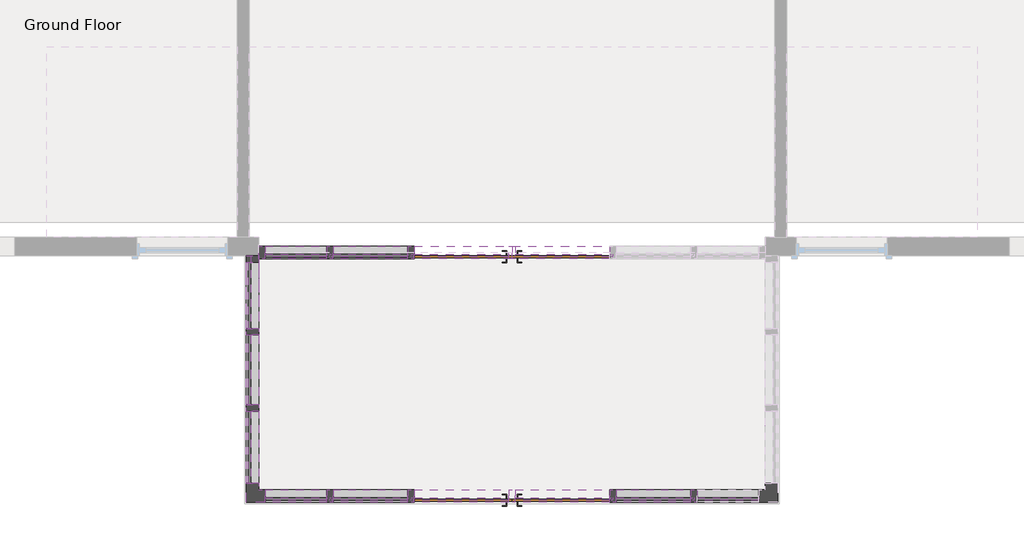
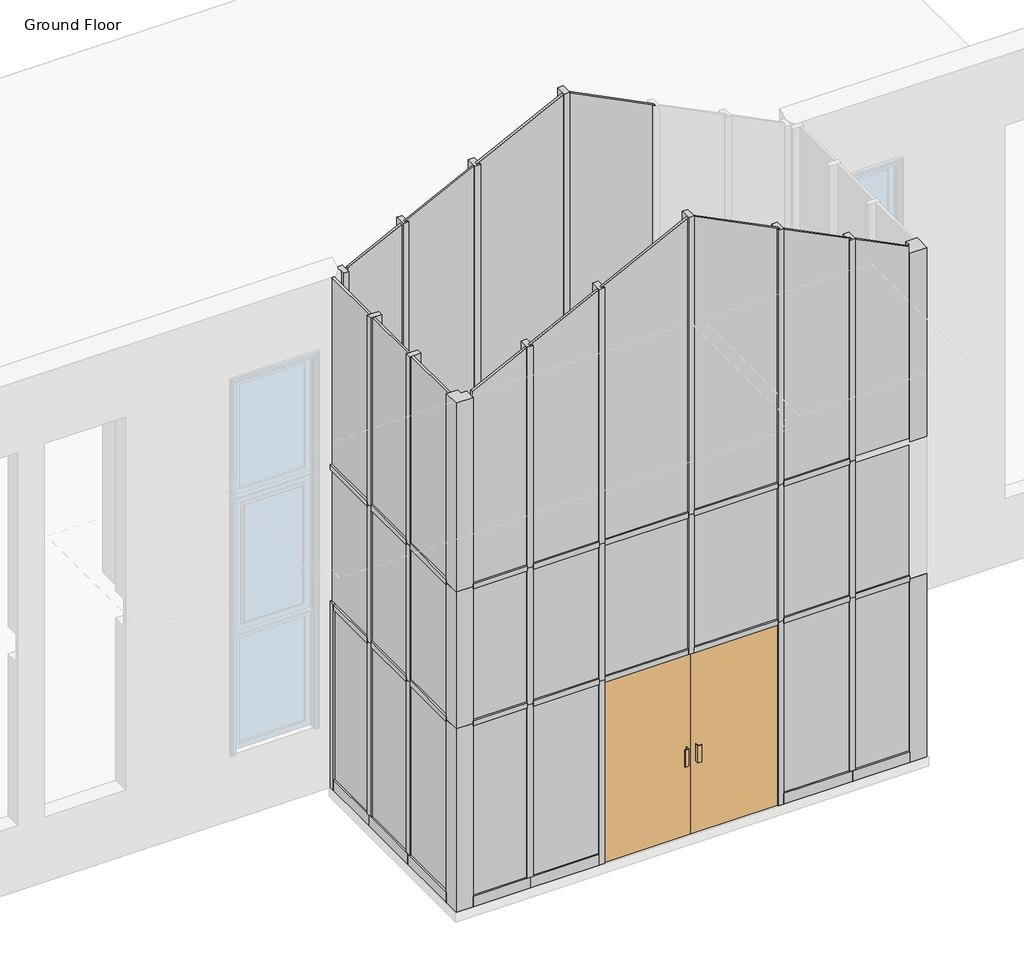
# One storey, part 1 of 3: 68 members, 35 plates, 2 doors.
"""IFC4 building model written with IfcOpenShell, lengths in millimetres."""

from ifc_helpers import new_model, si_unit, origin, place, context, project, spatial, transform, mapped, element, save
from components import curtain_wall_dbl_glass_curtain_wall_dbl_glass_05db96cf, member_5840e612, member_1de6f154, member_07888544, member_4f1c84db, member_2ee2964b, member_c7c5a8a0, member_4285daeb, member_a43dcf29, member_eba58f5c, member_efd07658, member_e8e1ff4f, member_cebf76e9, member_bce667ec, member_b4c2ac5f, member_301edf08, member_f4caef1d, member_3fbb5cd5, member_71c7872d, member_a22931d6, member_5478dbfe, member_1526e78e, member_869738d0, member_f8dc38bf, member_798d6cad, member_73a57e35, member_249e519d, member_307239a2, member_07c0dd6a, member_3a7f528f, member_10cd6abd, member_892852e1, member_f846b880, member_6f657a4a, member_0208a0fb, member_1bc8ff6f, system_panel_0d1f19e3, system_panel_731fbf32, system_panel_16aabe40, system_panel_system_panel_82d31de2, system_panel_system_panel_aed4df24, system_panel_system_panel_0f80bde9, system_panel_system_panel_8455f93f, system_panel_system_panel_c4c053e5, system_panel_system_panel_34ce2d28, system_panel_system_panel_f8c05b70, system_panel_system_panel_3b0a3080, system_panel_system_panel_e46ad46d, system_panel_system_panel_25a6b319, system_panel_system_panel_c4eb9c82, system_panel_system_panel_8af6dda9, system_panel_system_panel_4dc2e190, system_panel_system_panel_c20ba28e, system_panel_system_panel_5f75f87e, system_panel_system_panel_57bbfc52, system_panel_system_panel_4e58ff57, system_panel_system_panel_2f6c06c2, system_panel_system_panel_f158ec16, system_panel_system_panel_0c1b1511, system_panel_system_panel_dc3b2216, system_panel_system_panel_e0f36e76, system_panel_system_panel_14be3267, system_panel_system_panel_e406a2c2

model = new_model("IFC4")

# Units and contexts
model_context = context("Model", 3, world=origin())
ifc_project = project(units=[si_unit("LENGTHUNIT", "METRE", prefix="MILLI")], contexts=[model_context])

# Site, building, storey
site = spatial("IfcSite", under=ifc_project)
building = spatial("IfcBuilding", under=site)
storey = spatial("IfcBuildingStorey", under=building, Name="Ground Floor", Elevation=39624.0)

# Doors
placement = place(None, origin())
curtain_wall_dbl_glass_curtain_wall_dbl_glass_shape = curtain_wall_dbl_glass_curtain_wall_dbl_glass_05db96cf(model_context)
element("IfcDoor", 1, ObjectType="Curtain Wall Dbl Glass : Curtain Wall Dbl Glass", at=placement, inside=storey, context=model_context, shape_type="MappedRepresentation", body=[
    mapped(curtain_wall_dbl_glass_curtain_wall_dbl_glass_shape, transform((-8780.4917336, -16017.9519844, 39624.0), x_axis=(-1.0, 0.0, 0.0), y_axis=(0.0, -1.0, 0.0), z_axis=(0.0, 0.0, 1.0))),
])
element("IfcDoor", 2, ObjectType="Curtain Wall Dbl Glass : Curtain Wall Dbl Glass", at=placement, inside=storey, context=model_context, shape_type="MappedRepresentation", body=[
    mapped(curtain_wall_dbl_glass_curtain_wall_dbl_glass_shape, transform((-8780.4917336, -18456.3519844, 39624.0), x_axis=(-1.0, 0.0, 0.0), y_axis=(0.0, -1.0, 0.0), z_axis=(0.0, 0.0, 1.0))),
])

# Members
member_shape = member_5840e612(model_context)
element("IfcMember", 3, ObjectType="L Corner Mullion : 5\" x 5\" Corner", at=placement, inside=storey, context=model_context, shape_type="MappedRepresentation", body=[
    mapped(member_shape, transform((-11379.2292336, -18456.3519844, 45720.0), x_axis=(0.0, -1.0, 0.0), y_axis=(1.0, 0.0, 0.0), z_axis=(0.0, 0.0, 1.0))),
])
element("IfcMember", 4, ObjectType="L Corner Mullion : 5\" x 5\" Corner", at=placement, inside=storey, context=model_context, shape_type="MappedRepresentation", body=[
    mapped(member_shape, transform((-6181.7542336, -18456.3519844, 45720.0), x_axis=(1.0, 0.0, 0.0), y_axis=(0.0, 1.0, 0.0), z_axis=(0.0, 0.0, 1.0))),
])
member_2_shape = member_1de6f154(model_context)
element("IfcMember", 5, ObjectType="L Corner Mullion : 5\" x 5\" Corner", at=placement, inside=storey, context=model_context, shape_type="MappedRepresentation", body=[
    mapped(member_2_shape, transform((-11379.2292336, -18456.3519844, 41821.1), x_axis=(0.0, -1.0, 0.0), y_axis=(1.0, 0.0, 0.0), z_axis=(0.0, 0.0, 1.0))),
])
element("IfcMember", 6, ObjectType="L Corner Mullion : 5\" x 5\" Corner", at=placement, inside=storey, context=model_context, shape_type="MappedRepresentation", body=[
    mapped(member_2_shape, transform((-6181.7542336, -18456.3519844, 41821.1), x_axis=(1.0, 0.0, 0.0), y_axis=(0.0, 1.0, 0.0), z_axis=(0.0, 0.0, 1.0))),
])
member_3_shape = member_07888544(model_context)
element("IfcMember", 7, ObjectType="L Corner Mullion : 5\" x 5\" Corner", at=placement, inside=storey, context=model_context, shape_type="MappedRepresentation", body=[
    mapped(member_3_shape, transform((-11379.2292336, -18456.3519844, 43459.4), x_axis=(0.0, -1.0, 0.0), y_axis=(1.0, 0.0, 0.0), z_axis=(0.0, 0.0, 1.0))),
])
member_4_shape = member_4f1c84db(model_context)
element("IfcMember", 8, ObjectType="Rectangular Mullion : 2.5\" x 5\" rectangular", at=placement, inside=storey, context=model_context, shape_type="MappedRepresentation", body=[
    mapped(member_4_shape, transform((-11379.2292336, -16811.7019844, 39751.0), x_axis=(0.0, 1.0, 0.0), y_axis=(1.0, 0.0, 0.0), z_axis=(0.0, 0.0, -1.0))),
])
element("IfcMember", 9, ObjectType="Rectangular Mullion : 2.5\" x 5\" rectangular", at=placement, inside=storey, context=model_context, shape_type="MappedRepresentation", body=[
    mapped(member_4_shape, transform((-11379.2292336, -17573.7019844, 39751.0), x_axis=(0.0, 1.0, 0.0), y_axis=(1.0, 0.0, 0.0), z_axis=(0.0, 0.0, -1.0))),
])
element("IfcMember", 10, ObjectType="Rectangular Mullion : 2.5\" x 5\" rectangular", at=placement, inside=storey, context=model_context, shape_type="MappedRepresentation", body=[
    mapped(member_4_shape, transform((-6956.4542336, -18456.3519844, 39751.0), x_axis=(-1.0, 0.0, 0.0), y_axis=(0.0, 1.0, 0.0), z_axis=(0.0, 0.0, -1.0))),
])
element("IfcMember", 11, ObjectType="Rectangular Mullion : 2.5\" x 5\" rectangular", at=placement, inside=storey, context=model_context, shape_type="MappedRepresentation", body=[
    mapped(member_4_shape, transform((-10604.5292336, -18456.3519844, 39751.0), x_axis=(-1.0, 0.0, 0.0), y_axis=(0.0, 1.0, 0.0), z_axis=(0.0, 0.0, -1.0))),
])
member_5_shape = member_2ee2964b(model_context)
element("IfcMember", 12, ObjectType="Rectangular Mullion : 2.5\" x 5\" rectangular", at=placement, inside=storey, context=model_context, shape_type="MappedRepresentation", body=[
    mapped(member_5_shape, transform((-11379.2292336, -16113.2019844, 41821.1), x_axis=(0.0, 0.0, 1.0), y_axis=(1.0, 0.0, 0.0), z_axis=(0.0, 1.0, 0.0))),
])
member_6_shape = member_c7c5a8a0(model_context)
element("IfcMember", 13, ObjectType="Rectangular Mullion : 2.5\" x 5\" rectangular", at=placement, inside=storey, context=model_context, shape_type="MappedRepresentation", body=[
    mapped(member_6_shape, transform((-11379.2292336, -16843.4519844, 41821.1), x_axis=(0.0, 0.0, 1.0), y_axis=(1.0, 0.0, 0.0), z_axis=(0.0, 1.0, 0.0))),
])
element("IfcMember", 14, ObjectType="Rectangular Mullion : 2.5\" x 5\" rectangular", at=placement, inside=storey, context=model_context, shape_type="MappedRepresentation", body=[
    mapped(member_6_shape, transform((-11379.2292336, -16843.4519844, 43459.4), x_axis=(0.0, 0.0, 1.0), y_axis=(1.0, 0.0, 0.0), z_axis=(0.0, 1.0, 0.0))),
])
member_7_shape = member_4285daeb(model_context)
element("IfcMember", 15, ObjectType="Rectangular Mullion : 2.5\" x 5\" rectangular", at=placement, inside=storey, context=model_context, shape_type="MappedRepresentation", body=[
    mapped(member_7_shape, transform((-11379.2292336, -16049.7019844, 39624.0), x_axis=(0.0, 1.0, 0.0), y_axis=(1.0, 0.0, 0.0), z_axis=(0.0, 0.0, -1.0))),
])
member_8_shape = member_a43dcf29(model_context)
element("IfcMember", 16, ObjectType="Rectangular Mullion : 2.5\" x 5\" rectangular", at=placement, inside=storey, context=model_context, shape_type="MappedRepresentation", body=[
    mapped(member_8_shape, transform((-11379.2292336, -17605.4519844, 41821.1), x_axis=(0.0, 0.0, 1.0), y_axis=(1.0, 0.0, 0.0), z_axis=(0.0, 1.0, 0.0))),
])
element("IfcMember", 17, ObjectType="Rectangular Mullion : 2.5\" x 5\" rectangular", at=placement, inside=storey, context=model_context, shape_type="MappedRepresentation", body=[
    mapped(member_8_shape, transform((-6181.7542336, -18329.3519844, 41821.1), x_axis=(0.0, 0.0, 1.0), y_axis=(-1.0, 0.0, 0.0), z_axis=(0.0, -1.0, 0.0))),
])
element("IfcMember", 18, ObjectType="Rectangular Mullion : 2.5\" x 5\" rectangular", at=placement, inside=storey, context=model_context, shape_type="MappedRepresentation", body=[
    mapped(member_8_shape, transform((-11379.2292336, -17605.4519844, 43459.4), x_axis=(0.0, 0.0, 1.0), y_axis=(1.0, 0.0, 0.0), z_axis=(0.0, 1.0, 0.0))),
])
member_9_shape = member_eba58f5c(model_context)
element("IfcMember", 19, ObjectType="Rectangular Mullion : 2.5\" x 5\" rectangular", at=placement, inside=storey, context=model_context, shape_type="MappedRepresentation", body=[
    mapped(member_9_shape, transform((-11379.2292336, -16811.7019844, 41821.1), x_axis=(0.0, 1.0, 0.0), y_axis=(1.0, 0.0, 0.0), z_axis=(0.0, 0.0, -1.0))),
])
element("IfcMember", 20, ObjectType="Rectangular Mullion : 2.5\" x 5\" rectangular", at=placement, inside=storey, context=model_context, shape_type="MappedRepresentation", body=[
    mapped(member_9_shape, transform((-11379.2292336, -17573.7019844, 41821.1), x_axis=(0.0, 1.0, 0.0), y_axis=(1.0, 0.0, 0.0), z_axis=(0.0, 0.0, -1.0))),
])
element("IfcMember", 21, ObjectType="Rectangular Mullion : 2.5\" x 5\" rectangular", at=placement, inside=storey, context=model_context, shape_type="MappedRepresentation", body=[
    mapped(member_9_shape, transform((-6956.4542336, -18456.3519844, 41821.1), x_axis=(-1.0, 0.0, 0.0), y_axis=(0.0, 1.0, 0.0), z_axis=(0.0, 0.0, -1.0))),
])
element("IfcMember", 22, ObjectType="Rectangular Mullion : 2.5\" x 5\" rectangular", at=placement, inside=storey, context=model_context, shape_type="MappedRepresentation", body=[
    mapped(member_9_shape, transform((-7769.2542336, -18456.3519844, 41821.1), x_axis=(-1.0, 0.0, 0.0), y_axis=(0.0, 1.0, 0.0), z_axis=(0.0, 0.0, -1.0))),
])
element("IfcMember", 23, ObjectType="Rectangular Mullion : 2.5\" x 5\" rectangular", at=placement, inside=storey, context=model_context, shape_type="MappedRepresentation", body=[
    mapped(member_9_shape, transform((-9791.7292336, -18456.3519844, 41821.1), x_axis=(-1.0, 0.0, 0.0), y_axis=(0.0, 1.0, 0.0), z_axis=(0.0, 0.0, -1.0))),
])
element("IfcMember", 24, ObjectType="Rectangular Mullion : 2.5\" x 5\" rectangular", at=placement, inside=storey, context=model_context, shape_type="MappedRepresentation", body=[
    mapped(member_9_shape, transform((-10604.5292336, -18456.3519844, 41821.1), x_axis=(-1.0, 0.0, 0.0), y_axis=(0.0, 1.0, 0.0), z_axis=(0.0, 0.0, -1.0))),
])
member_10_shape = member_efd07658(model_context)
element("IfcMember", 25, ObjectType="Rectangular Mullion : 2.5\" x 5\" rectangular", at=placement, inside=storey, context=model_context, shape_type="MappedRepresentation", body=[
    mapped(member_10_shape, transform((-11379.2292336, -16811.7019844, 43459.4), x_axis=(0.0, 1.0, 0.0), y_axis=(1.0, 0.0, 0.0), z_axis=(0.0, 0.0, -1.0))),
])
element("IfcMember", 26, ObjectType="Rectangular Mullion : 2.5\" x 5\" rectangular", at=placement, inside=storey, context=model_context, shape_type="MappedRepresentation", body=[
    mapped(member_10_shape, transform((-11379.2292336, -17573.7019844, 43459.4), x_axis=(0.0, 1.0, 0.0), y_axis=(1.0, 0.0, 0.0), z_axis=(0.0, 0.0, -1.0))),
])
member_11_shape = member_e8e1ff4f(model_context)
element("IfcMember", 27, ObjectType="Rectangular Mullion : 2.5\" x 5\" rectangular", at=placement, inside=storey, context=model_context, shape_type="MappedRepresentation", body=[
    mapped(member_11_shape, transform((-8748.7417336, -18456.3519844, 41821.1), x_axis=(0.0, 0.0, 1.0), y_axis=(0.0, 1.0, 0.0), z_axis=(-1.0, 0.0, 0.0))),
])
element("IfcMember", 28, ObjectType="Rectangular Mullion : 2.5\" x 5\" rectangular", at=placement, inside=storey, context=model_context, shape_type="MappedRepresentation", body=[
    mapped(member_11_shape, transform((-9759.9792336, -18456.3519844, 41821.1), x_axis=(0.0, 0.0, 1.0), y_axis=(0.0, 1.0, 0.0), z_axis=(-1.0, 0.0, 0.0))),
])
element("IfcMember", 29, ObjectType="Rectangular Mullion : 2.5\" x 5\" rectangular", at=placement, inside=storey, context=model_context, shape_type="MappedRepresentation", body=[
    mapped(member_11_shape, transform((-8748.7417336, -18456.3519844, 43459.4), x_axis=(0.0, 0.0, 1.0), y_axis=(0.0, 1.0, 0.0), z_axis=(-1.0, 0.0, 0.0))),
])
element("IfcMember", 30, ObjectType="Rectangular Mullion : 2.5\" x 5\" rectangular", at=placement, inside=storey, context=model_context, shape_type="MappedRepresentation", body=[
    mapped(member_11_shape, transform((-9759.9792336, -18456.3519844, 43459.4), x_axis=(0.0, 0.0, 1.0), y_axis=(0.0, 1.0, 0.0), z_axis=(-1.0, 0.0, 0.0))),
])
member_12_shape = member_cebf76e9(model_context)
element("IfcMember", 31, ObjectType="Rectangular Mullion : 2.5\" x 5\" rectangular", at=placement, inside=storey, context=model_context, shape_type="MappedRepresentation", body=[
    mapped(member_12_shape, transform((-8780.4917336, -18456.3519844, 41789.35), x_axis=(-1.0, 0.0, 0.0), y_axis=(0.0, 1.0, 0.0), z_axis=(0.0, 0.0, -1.0))),
])
member_13_shape = member_bce667ec(model_context)
element("IfcMember", 32, ObjectType="Rectangular Mullion : 2.5\" x 5\" rectangular", at=placement, inside=storey, context=model_context, shape_type="MappedRepresentation", body=[
    mapped(member_13_shape, transform((-11379.2292336, -16049.7019844, 43459.4), x_axis=(0.0, 0.0, 1.0), y_axis=(1.0, 0.0, 0.0), z_axis=(0.0, 1.0, 0.0))),
])
member_14_shape = member_b4c2ac5f(model_context)
element("IfcMember", 33, ObjectType="Rectangular Mullion : 2.5\" x 5\" rectangular", at=placement, inside=storey, context=model_context, shape_type="MappedRepresentation", body=[
    mapped(member_14_shape, transform((-10604.5292336, -16017.9519844, 43453.05), x_axis=(-1.0, 0.0, 0.0), y_axis=(0.0, 1.0, 0.0), z_axis=(0.0, 0.0, -1.0))),
])
member_15_shape = member_301edf08(model_context)
element("IfcMember", 34, ObjectType="Rectangular Mullion : 2.5\" x 5\" rectangular", at=placement, inside=storey, context=model_context, shape_type="MappedRepresentation", body=[
    mapped(member_15_shape, transform((-9791.7292336, -16017.9519844, 43453.05), x_axis=(-1.0, 0.0, 0.0), y_axis=(0.0, 1.0, 0.0), z_axis=(0.0, 0.0, -1.0))),
])
member_16_shape = member_f4caef1d(model_context)
element("IfcMember", 35, ObjectType="Rectangular Mullion : 2.5\" x 5\" rectangular", at=placement, inside=storey, context=model_context, shape_type="MappedRepresentation", body=[
    mapped(member_16_shape, transform((-8780.4917336, -16017.9519844, 43453.05), x_axis=(-1.0, 0.0, 0.0), y_axis=(0.0, 1.0, 0.0), z_axis=(0.0, 0.0, -1.0))),
])
member_17_shape = member_3fbb5cd5(model_context)
element("IfcMember", 36, ObjectType="Rectangular Mullion : 2.5\" x 5\" rectangular", at=placement, inside=storey, context=model_context, shape_type="MappedRepresentation", body=[
    mapped(member_17_shape, transform((-11315.7292336, -16017.9519844, 43453.05), x_axis=(-1.0, 0.0, 0.0), y_axis=(0.0, 1.0, 0.0), z_axis=(0.0, 0.0, -1.0))),
])
member_18_shape = member_71c7872d(model_context)
element("IfcMember", 37, ObjectType="Rectangular Mullion : 2.5\" x 5\" rectangular", at=placement, inside=storey, context=model_context, shape_type="MappedRepresentation", body=[
    mapped(member_18_shape, transform((-6956.4542336, -18456.3519844, 43459.4), x_axis=(-1.0, 0.0, 0.0), y_axis=(0.0, 1.0, 0.0), z_axis=(0.0, 0.0, -1.0))),
])
element("IfcMember", 38, ObjectType="Rectangular Mullion : 2.5\" x 5\" rectangular", at=placement, inside=storey, context=model_context, shape_type="MappedRepresentation", body=[
    mapped(member_18_shape, transform((-10604.5292336, -18456.3519844, 43459.4), x_axis=(-1.0, 0.0, 0.0), y_axis=(0.0, 1.0, 0.0), z_axis=(0.0, 0.0, -1.0))),
])
member_19_shape = member_a22931d6(model_context)
element("IfcMember", 39, ObjectType="Rectangular Mullion : 2.5\" x 5\" rectangular", at=placement, inside=storey, context=model_context, shape_type="MappedRepresentation", body=[
    mapped(member_19_shape, transform((-7769.2542336, -18456.3519844, 43459.4), x_axis=(-1.0, 0.0, 0.0), y_axis=(0.0, 1.0, 0.0), z_axis=(0.0, 0.0, -1.0))),
])
element("IfcMember", 40, ObjectType="Rectangular Mullion : 2.5\" x 5\" rectangular", at=placement, inside=storey, context=model_context, shape_type="MappedRepresentation", body=[
    mapped(member_19_shape, transform((-9791.7292336, -18456.3519844, 43459.4), x_axis=(-1.0, 0.0, 0.0), y_axis=(0.0, 1.0, 0.0), z_axis=(0.0, 0.0, -1.0))),
])
member_20_shape = member_5478dbfe(model_context)
element("IfcMember", 41, ObjectType="Rectangular Mullion : 2.5\" x 5\" rectangular", at=placement, inside=storey, context=model_context, shape_type="MappedRepresentation", body=[
    mapped(member_20_shape, transform((-8780.4917336, -18456.3519844, 43459.4), x_axis=(-1.0, 0.0, 0.0), y_axis=(0.0, 1.0, 0.0), z_axis=(0.0, 0.0, -1.0))),
])
member_21_shape = member_1526e78e(model_context)
element("IfcMember", 42, ObjectType="Rectangular Mullion : 2.5\" x 5\" rectangular", at=placement, inside=storey, context=model_context, shape_type="MappedRepresentation", body=[
    mapped(member_21_shape, transform((-10604.5292336, -16017.9519844, 39624.0), x_axis=(-1.0, 0.0, 0.0), y_axis=(0.0, 1.0, 0.0), z_axis=(0.0, 0.0, -1.0))),
])
element("IfcMember", 43, ObjectType="Rectangular Mullion : 2.5\" x 5\" rectangular", at=placement, inside=storey, context=model_context, shape_type="MappedRepresentation", body=[
    mapped(member_21_shape, transform((-9791.7292336, -16017.9519844, 39624.0), x_axis=(-1.0, 0.0, 0.0), y_axis=(0.0, 1.0, 0.0), z_axis=(0.0, 0.0, -1.0))),
])
element("IfcMember", 44, ObjectType="Rectangular Mullion : 2.5\" x 5\" rectangular", at=placement, inside=storey, context=model_context, shape_type="MappedRepresentation", body=[
    mapped(member_21_shape, transform((-7769.2542336, -18456.3519844, 39624.0), x_axis=(-1.0, 0.0, 0.0), y_axis=(0.0, 1.0, 0.0), z_axis=(0.0, 0.0, -1.0))),
])
element("IfcMember", 45, ObjectType="Rectangular Mullion : 2.5\" x 5\" rectangular", at=placement, inside=storey, context=model_context, shape_type="MappedRepresentation", body=[
    mapped(member_21_shape, transform((-9791.7292336, -18456.3519844, 39624.0), x_axis=(-1.0, 0.0, 0.0), y_axis=(0.0, 1.0, 0.0), z_axis=(0.0, 0.0, -1.0))),
])
member_22_shape = member_869738d0(model_context)
element("IfcMember", 46, ObjectType="Rectangular Mullion : 2.5\" x 5\" rectangular", at=placement, inside=storey, context=model_context, shape_type="MappedRepresentation", body=[
    mapped(member_22_shape, transform((-10604.5292336, -16017.9519844, 41821.1), x_axis=(-1.0, 0.0, 0.0), y_axis=(0.0, 1.0, 0.0), z_axis=(0.0, 0.0, -1.0))),
])
element("IfcMember", 47, ObjectType="Rectangular Mullion : 2.5\" x 5\" rectangular", at=placement, inside=storey, context=model_context, shape_type="MappedRepresentation", body=[
    mapped(member_22_shape, transform((-9791.7292336, -16017.9519844, 41821.1), x_axis=(-1.0, 0.0, 0.0), y_axis=(0.0, 1.0, 0.0), z_axis=(0.0, 0.0, -1.0))),
])
member_23_shape = member_f8dc38bf(model_context)
element("IfcMember", 48, ObjectType="Rectangular Mullion : 2.5\" x 5\" rectangular", at=placement, inside=storey, context=model_context, shape_type="MappedRepresentation", body=[
    mapped(member_23_shape, transform((-11252.2292336, -16017.9519844, 41821.1), x_axis=(0.0, 0.0, 1.0), y_axis=(0.0, 1.0, 0.0), z_axis=(-1.0, 0.0, 0.0))),
])
element("IfcMember", 49, ObjectType="Rectangular Mullion : 2.5\" x 5\" rectangular", at=placement, inside=storey, context=model_context, shape_type="MappedRepresentation", body=[
    mapped(member_23_shape, transform((-6924.7042336, -18456.3519844, 41821.1), x_axis=(0.0, 0.0, 1.0), y_axis=(0.0, 1.0, 0.0), z_axis=(-1.0, 0.0, 0.0))),
])
element("IfcMember", 50, ObjectType="Rectangular Mullion : 2.5\" x 5\" rectangular", at=placement, inside=storey, context=model_context, shape_type="MappedRepresentation", body=[
    mapped(member_23_shape, transform((-11252.2292336, -18456.3519844, 41821.1), x_axis=(0.0, 0.0, 1.0), y_axis=(0.0, 1.0, 0.0), z_axis=(-1.0, 0.0, 0.0))),
])
element("IfcMember", 51, ObjectType="Rectangular Mullion : 2.5\" x 5\" rectangular", at=placement, inside=storey, context=model_context, shape_type="MappedRepresentation", body=[
    mapped(member_23_shape, transform((-11252.2292336, -18456.3519844, 43459.4), x_axis=(0.0, 0.0, 1.0), y_axis=(0.0, 1.0, 0.0), z_axis=(-1.0, 0.0, 0.0))),
])
member_24_shape = member_798d6cad(model_context)
element("IfcMember", 52, ObjectType="Rectangular Mullion : 2.5\" x 5\" rectangular", at=placement, inside=storey, context=model_context, shape_type="MappedRepresentation", body=[
    mapped(member_24_shape, transform((-10572.7792336, -16017.9519844, 41821.1), x_axis=(0.0, 0.0, 1.0), y_axis=(0.0, 1.0, 0.0), z_axis=(-1.0, 0.0, 0.0))),
])
element("IfcMember", 53, ObjectType="Rectangular Mullion : 2.5\" x 5\" rectangular", at=placement, inside=storey, context=model_context, shape_type="MappedRepresentation", body=[
    mapped(member_24_shape, transform((-7737.5042336, -18456.3519844, 41821.1), x_axis=(0.0, 0.0, 1.0), y_axis=(0.0, 1.0, 0.0), z_axis=(-1.0, 0.0, 0.0))),
])
element("IfcMember", 54, ObjectType="Rectangular Mullion : 2.5\" x 5\" rectangular", at=placement, inside=storey, context=model_context, shape_type="MappedRepresentation", body=[
    mapped(member_24_shape, transform((-10572.7792336, -18456.3519844, 41821.1), x_axis=(0.0, 0.0, 1.0), y_axis=(0.0, 1.0, 0.0), z_axis=(-1.0, 0.0, 0.0))),
])
element("IfcMember", 55, ObjectType="Rectangular Mullion : 2.5\" x 5\" rectangular", at=placement, inside=storey, context=model_context, shape_type="MappedRepresentation", body=[
    mapped(member_24_shape, transform((-7737.5042336, -18456.3519844, 43459.4), x_axis=(0.0, 0.0, 1.0), y_axis=(0.0, 1.0, 0.0), z_axis=(-1.0, 0.0, 0.0))),
])
element("IfcMember", 56, ObjectType="Rectangular Mullion : 2.5\" x 5\" rectangular", at=placement, inside=storey, context=model_context, shape_type="MappedRepresentation", body=[
    mapped(member_24_shape, transform((-10572.7792336, -18456.3519844, 43459.4), x_axis=(0.0, 0.0, 1.0), y_axis=(0.0, 1.0, 0.0), z_axis=(-1.0, 0.0, 0.0))),
])
member_25_shape = member_73a57e35(model_context)
element("IfcMember", 57, ObjectType="Rectangular Mullion : 2.5\" x 5\" rectangular", at=placement, inside=storey, context=model_context, shape_type="MappedRepresentation", body=[
    mapped(member_25_shape, transform((-11315.7292336, -16017.9519844, 39624.0), x_axis=(-1.0, 0.0, 0.0), y_axis=(0.0, 1.0, 0.0), z_axis=(0.0, 0.0, -1.0))),
])
member_26_shape = member_249e519d(model_context)
element("IfcMember", 58, ObjectType="Rectangular Mullion : 2.5\" x 5\" rectangular", at=placement, inside=storey, context=model_context, shape_type="MappedRepresentation", body=[
    mapped(member_26_shape, transform((-11315.7292336, -16017.9519844, 41821.1), x_axis=(-1.0, 0.0, 0.0), y_axis=(0.0, 1.0, 0.0), z_axis=(0.0, 0.0, -1.0))),
])
member_27_shape = member_307239a2(model_context)
element("IfcMember", 59, ObjectType="Rectangular Mullion : 2.5\" x 5\" rectangular", at=placement, inside=storey, context=model_context, shape_type="MappedRepresentation", body=[
    mapped(member_27_shape, transform((-8780.4917336, -16017.9519844, 41852.85), x_axis=(-1.0, 0.0, 0.0), y_axis=(0.0, 1.0, 0.0), z_axis=(0.0, 0.0, -1.0))),
])
member_28_shape = member_07c0dd6a(model_context)
element("IfcMember", 60, ObjectType="Rectangular Mullion : 2.5\" x 5\" rectangular", at=placement, inside=storey, context=model_context, shape_type="MappedRepresentation", body=[
    mapped(member_28_shape, transform((-8780.4917336, -16017.9519844, 41821.1), x_axis=(0.0, 0.0, 1.0), y_axis=(0.0, 1.0, 0.0), z_axis=(-1.0, 0.0, 0.0))),
])
element("IfcMember", 61, ObjectType="Rectangular Mullion : 2.5\" x 5\" rectangular", at=placement, inside=storey, context=model_context, shape_type="MappedRepresentation", body=[
    mapped(member_28_shape, transform((-9759.9792336, -16017.9519844, 41821.1), x_axis=(0.0, 0.0, 1.0), y_axis=(0.0, 1.0, 0.0), z_axis=(-1.0, 0.0, 0.0))),
])
member_29_shape = member_3a7f528f(model_context)
element("IfcMember", 62, ObjectType="Rectangular Mullion : 5\" x 5\" Rectangular", at=placement, inside=storey, context=model_context, shape_type="MappedRepresentation", body=[
    mapped(member_29_shape, transform((-9823.4792336, -16017.9519844, 39624.0), x_axis=(0.0, 0.0, -1.0), y_axis=(0.0, 1.0, 0.0), z_axis=(1.0, 0.0, 0.0))),
])
member_30_shape = member_10cd6abd(model_context)
element("IfcMember", 63, ObjectType="Rectangular Mullion : 5\" x 5\" Rectangular", at=placement, inside=storey, context=model_context, shape_type="MappedRepresentation", body=[
    mapped(member_30_shape, transform((-10636.2792336, -16017.9519844, 39624.0), x_axis=(0.0, 0.0, -1.0), y_axis=(0.0, 1.0, 0.0), z_axis=(1.0, 0.0, 0.0))),
])
member_31_shape = member_892852e1(model_context)
element("IfcMember", 64, ObjectType="Rectangular Mullion : 5\" x 5\" Rectangular", at=placement, inside=storey, context=model_context, shape_type="MappedRepresentation", body=[
    mapped(member_31_shape, transform((-11379.2292336, -17573.7019844, 39624.0), x_axis=(0.0, 0.0, -1.0), y_axis=(1.0, 0.0, 0.0), z_axis=(0.0, -1.0, 0.0))),
])
member_32_shape = member_f846b880(model_context)
element("IfcMember", 65, ObjectType="Rectangular Mullion : 5\" x 5\" Rectangular", at=placement, inside=storey, context=model_context, shape_type="MappedRepresentation", body=[
    mapped(member_32_shape, transform((-6308.7542336, -18456.3519844, 39624.0), x_axis=(0.0, 0.0, -1.0), y_axis=(0.0, 1.0, 0.0), z_axis=(1.0, 0.0, 0.0))),
])
member_33_shape = member_6f657a4a(model_context)
element("IfcMember", 66, ObjectType="Rectangular Mullion : 5\" x 5\" Rectangular", at=placement, inside=storey, context=model_context, shape_type="MappedRepresentation", body=[
    mapped(member_33_shape, transform((-6956.4542336, -18456.3519844, 39624.0), x_axis=(0.0, 0.0, -1.0), y_axis=(0.0, 1.0, 0.0), z_axis=(1.0, 0.0, 0.0))),
])
element("IfcMember", 67, ObjectType="Rectangular Mullion : 5\" x 5\" Rectangular", at=placement, inside=storey, context=model_context, shape_type="MappedRepresentation", body=[
    mapped(member_32_shape, transform((-10604.5292336, -18456.3519844, 39624.0), x_axis=(0.0, 0.0, -1.0), y_axis=(0.0, 1.0, 0.0), z_axis=(1.0, 0.0, 0.0))),
])
element("IfcMember", 68, ObjectType="Rectangular Mullion : 5\" x 5\" Rectangular", at=placement, inside=storey, context=model_context, shape_type="MappedRepresentation", body=[
    mapped(member_33_shape, transform((-9823.4792336, -18456.3519844, 39624.0), x_axis=(0.0, 0.0, -1.0), y_axis=(0.0, 1.0, 0.0), z_axis=(1.0, 0.0, 0.0))),
])
member_34_shape = member_0208a0fb(model_context)
element("IfcMember", 69, ObjectType="Rectangular Mullion : 5\" x 5\" Rectangular", at=placement, inside=storey, context=model_context, shape_type="MappedRepresentation", body=[
    mapped(member_34_shape, transform((-11379.2292336, -18329.3519844, 39624.0), x_axis=(0.0, 0.0, -1.0), y_axis=(1.0, 0.0, 0.0), z_axis=(0.0, -1.0, 0.0))),
])
member_35_shape = member_1bc8ff6f(model_context)
element("IfcMember", 70, ObjectType="Rectangular Mullion : 5\" x 5\" Rectangular", at=placement, inside=storey, context=model_context, shape_type="MappedRepresentation", body=[
    mapped(member_35_shape, transform((-11379.2292336, -16811.7019844, 39624.0), x_axis=(0.0, 0.0, -1.0), y_axis=(1.0, 0.0, 0.0), z_axis=(0.0, -1.0, 0.0))),
])

# Plates
system_panel_shape = system_panel_0d1f19e3(model_context)
element("IfcPlate", 71, ObjectType="System Panel : Spandral Panel", at=placement, inside=storey, context=model_context, shape_type="MappedRepresentation", body=[
    mapped(system_panel_shape, transform((-10944.2542336, -16017.9519844, 41852.85), x_axis=(-1.0, 0.0, 0.0), y_axis=(0.0, -1.0, 0.0), z_axis=(0.0, 0.0, 1.0))),
])
system_panel_2_shape = system_panel_731fbf32(model_context)
element("IfcPlate", 72, ObjectType="System Panel : Spandral Panel", at=placement, inside=storey, context=model_context, shape_type="MappedRepresentation", body=[
    mapped(system_panel_2_shape, transform((-10198.1292336, -16017.9519844, 41852.85), x_axis=(-1.0, 0.0, 0.0), y_axis=(0.0, -1.0, 0.0), z_axis=(0.0, 0.0, 1.0))),
])
system_panel_3_shape = system_panel_16aabe40(model_context)
element("IfcPlate", 73, ObjectType="System Panel : Spandral Panel", at=placement, inside=storey, context=model_context, shape_type="MappedRepresentation", body=[
    mapped(system_panel_3_shape, transform((-8274.8729836, -16017.9519844, 41852.85), x_axis=(-1.0, 0.0, 0.0), y_axis=(0.0, -1.0, 0.0), z_axis=(0.0, 0.0, 1.0))),
])
element("IfcPlate", 74, ObjectType="System Panel : Spandral Panel", at=placement, inside=storey, context=model_context, shape_type="MappedRepresentation", body=[
    mapped(system_panel_3_shape, transform((-9286.1104836, -16017.9519844, 41852.85), x_axis=(-1.0, 0.0, 0.0), y_axis=(0.0, -1.0, 0.0), z_axis=(0.0, 0.0, 1.0))),
])
system_panel_system_panel_shape = system_panel_system_panel_82d31de2(model_context)
element("IfcPlate", 75, ObjectType="System Panel : System Panel", at=placement, inside=storey, context=model_context, shape_type="MappedRepresentation", body=[
    mapped(system_panel_system_panel_shape, transform((-11379.2292336, -16446.5769844, 39751.0), x_axis=(0.0, 1.0, 0.0), y_axis=(-1.0, 0.0, 0.0), z_axis=(0.0, 0.0, 1.0))),
])
system_panel_system_panel_2_shape = system_panel_system_panel_aed4df24(model_context)
element("IfcPlate", 76, ObjectType="System Panel : System Panel", at=placement, inside=storey, context=model_context, shape_type="MappedRepresentation", body=[
    mapped(system_panel_system_panel_2_shape, transform((-11379.2292336, -17192.7019844, 39751.0), x_axis=(0.0, 1.0, 0.0), y_axis=(-1.0, 0.0, 0.0), z_axis=(0.0, 0.0, 1.0))),
])
system_panel_system_panel_3_shape = system_panel_system_panel_0f80bde9(model_context)
element("IfcPlate", 77, ObjectType="System Panel : System Panel", at=placement, inside=storey, context=model_context, shape_type="MappedRepresentation", body=[
    mapped(system_panel_system_panel_3_shape, transform((-11379.2292336, -17967.4019844, 39751.0), x_axis=(0.0, 1.0, 0.0), y_axis=(-1.0, 0.0, 0.0), z_axis=(0.0, 0.0, 1.0))),
])
system_panel_system_panel_4_shape = system_panel_system_panel_8455f93f(model_context)
element("IfcPlate", 78, ObjectType="System Panel : System Panel", at=placement, inside=storey, context=model_context, shape_type="MappedRepresentation", body=[
    mapped(system_panel_system_panel_4_shape, transform((-6616.7292336, -18456.3519844, 41852.85), x_axis=(-1.0, 0.0, 0.0), y_axis=(0.0, -1.0, 0.0), z_axis=(0.0, 0.0, 1.0))),
])
element("IfcPlate", 79, ObjectType="System Panel : System Panel", at=placement, inside=storey, context=model_context, shape_type="MappedRepresentation", body=[
    mapped(system_panel_system_panel_4_shape, transform((-10944.2542336, -18456.3519844, 41852.85), x_axis=(-1.0, 0.0, 0.0), y_axis=(0.0, -1.0, 0.0), z_axis=(0.0, 0.0, 1.0))),
])
system_panel_system_panel_5_shape = system_panel_system_panel_c4c053e5(model_context)
element("IfcPlate", 80, ObjectType="System Panel : System Panel", at=placement, inside=storey, context=model_context, shape_type="MappedRepresentation", body=[
    mapped(system_panel_system_panel_5_shape, transform((-7362.8542336, -18456.3519844, 41852.85), x_axis=(-1.0, 0.0, 0.0), y_axis=(0.0, -1.0, 0.0), z_axis=(0.0, 0.0, 1.0))),
])
element("IfcPlate", 81, ObjectType="System Panel : System Panel", at=placement, inside=storey, context=model_context, shape_type="MappedRepresentation", body=[
    mapped(system_panel_system_panel_5_shape, transform((-10198.1292336, -18456.3519844, 41852.85), x_axis=(-1.0, 0.0, 0.0), y_axis=(0.0, -1.0, 0.0), z_axis=(0.0, 0.0, 1.0))),
])
system_panel_system_panel_6_shape = system_panel_system_panel_34ce2d28(model_context)
element("IfcPlate", 82, ObjectType="System Panel : System Panel", at=placement, inside=storey, context=model_context, shape_type="MappedRepresentation", body=[
    mapped(system_panel_system_panel_6_shape, transform((-8274.8729836, -18456.3519844, 41852.85), x_axis=(-1.0, 0.0, 0.0), y_axis=(0.0, -1.0, 0.0), z_axis=(0.0, 0.0, 1.0))),
])
element("IfcPlate", 83, ObjectType="System Panel : System Panel", at=placement, inside=storey, context=model_context, shape_type="MappedRepresentation", body=[
    mapped(system_panel_system_panel_6_shape, transform((-9286.1104836, -18456.3519844, 41852.85), x_axis=(-1.0, 0.0, 0.0), y_axis=(0.0, -1.0, 0.0), z_axis=(0.0, 0.0, 1.0))),
])
system_panel_system_panel_7_shape = system_panel_system_panel_f8c05b70(model_context)
element("IfcPlate", 84, ObjectType="System Panel : System Panel", at=placement, inside=storey, context=model_context, shape_type="MappedRepresentation", body=[
    mapped(system_panel_system_panel_7_shape, transform((-11379.2292336, -17192.7019844, 41852.85), x_axis=(0.0, 1.0, 0.0), y_axis=(-1.0, 0.0, 0.0), z_axis=(0.0, 0.0, 1.0))),
])
system_panel_system_panel_8_shape = system_panel_system_panel_3b0a3080(model_context)
element("IfcPlate", 85, ObjectType="System Panel : System Panel", at=placement, inside=storey, context=model_context, shape_type="MappedRepresentation", body=[
    mapped(system_panel_system_panel_8_shape, transform((-11379.2292336, -17192.7019844, 43491.15), x_axis=(0.0, 1.0, 0.0), y_axis=(-1.0, 0.0, 0.0), z_axis=(0.0, 0.0, 1.0))),
])
system_panel_system_panel_9_shape = system_panel_system_panel_e46ad46d(model_context)
element("IfcPlate", 86, ObjectType="System Panel : System Panel", at=placement, inside=storey, context=model_context, shape_type="MappedRepresentation", body=[
    mapped(system_panel_system_panel_9_shape, transform((-11379.2292336, -17967.4019844, 41852.85), x_axis=(0.0, 1.0, 0.0), y_axis=(-1.0, 0.0, 0.0), z_axis=(0.0, 0.0, 1.0))),
])
system_panel_system_panel_10_shape = system_panel_system_panel_25a6b319(model_context)
element("IfcPlate", 87, ObjectType="System Panel : System Panel", at=placement, inside=storey, context=model_context, shape_type="MappedRepresentation", body=[
    mapped(system_panel_system_panel_10_shape, transform((-11379.2292336, -17967.4019844, 43491.15), x_axis=(0.0, 1.0, 0.0), y_axis=(-1.0, 0.0, 0.0), z_axis=(0.0, 0.0, 1.0))),
])
system_panel_system_panel_11_shape = system_panel_system_panel_c4eb9c82(model_context)
element("IfcPlate", 88, ObjectType="System Panel : System Panel", at=placement, inside=storey, context=model_context, shape_type="MappedRepresentation", body=[
    mapped(system_panel_system_panel_11_shape, transform((-11379.2292336, -16414.8269844, 41852.85), x_axis=(0.0, 1.0, 0.0), y_axis=(-1.0, 0.0, 0.0), z_axis=(0.0, 0.0, 1.0))),
])
system_panel_system_panel_12_shape = system_panel_system_panel_8af6dda9(model_context)
element("IfcPlate", 89, ObjectType="System Panel : System Panel", at=placement, inside=storey, context=model_context, shape_type="MappedRepresentation", body=[
    mapped(system_panel_system_panel_12_shape, transform((-11379.2292336, -16414.8269844, 43491.15), x_axis=(0.0, 1.0, 0.0), y_axis=(-1.0, 0.0, 0.0), z_axis=(0.0, 0.0, 1.0))),
])
system_panel_system_panel_13_shape = system_panel_system_panel_4dc2e190(model_context)
element("IfcPlate", 90, ObjectType="System Panel : System Panel", at=placement, inside=storey, context=model_context, shape_type="MappedRepresentation", body=[
    mapped(system_panel_system_panel_13_shape, transform((-8258.9979836, -16017.9519844, 43453.05), x_axis=(-1.0, 0.0, 0.0), y_axis=(0.0, -1.0, 0.0), z_axis=(0.0, 0.0, 1.0))),
])
system_panel_system_panel_14_shape = system_panel_system_panel_c20ba28e(model_context)
element("IfcPlate", 91, ObjectType="System Panel : System Panel", at=placement, inside=storey, context=model_context, shape_type="MappedRepresentation", body=[
    mapped(system_panel_system_panel_14_shape, transform((-10214.0042336, -16017.9519844, 43453.05), x_axis=(-1.0, 0.0, 0.0), y_axis=(0.0, -1.0, 0.0), z_axis=(0.0, 0.0, 1.0))),
])
system_panel_system_panel_15_shape = system_panel_system_panel_5f75f87e(model_context)
element("IfcPlate", 92, ObjectType="System Panel : System Panel", at=placement, inside=storey, context=model_context, shape_type="MappedRepresentation", body=[
    mapped(system_panel_system_panel_15_shape, transform((-9301.9854836, -16017.9519844, 43453.05), x_axis=(-1.0, 0.0, 0.0), y_axis=(0.0, -1.0, 0.0), z_axis=(0.0, 0.0, 1.0))),
])
system_panel_system_panel_16_shape = system_panel_system_panel_57bbfc52(model_context)
element("IfcPlate", 93, ObjectType="System Panel : System Panel", at=placement, inside=storey, context=model_context, shape_type="MappedRepresentation", body=[
    mapped(system_panel_system_panel_16_shape, transform((-7346.9792336, -18456.3519844, 43491.15), x_axis=(-1.0, 0.0, 0.0), y_axis=(0.0, -1.0, 0.0), z_axis=(0.0, 0.0, 1.0))),
])
system_panel_system_panel_17_shape = system_panel_system_panel_4e58ff57(model_context)
element("IfcPlate", 94, ObjectType="System Panel : System Panel", at=placement, inside=storey, context=model_context, shape_type="MappedRepresentation", body=[
    mapped(system_panel_system_panel_17_shape, transform((-8258.9979836, -18456.3519844, 43491.15), x_axis=(-1.0, 0.0, 0.0), y_axis=(0.0, -1.0, 0.0), z_axis=(0.0, 0.0, 1.0))),
])
system_panel_system_panel_18_shape = system_panel_system_panel_2f6c06c2(model_context)
element("IfcPlate", 95, ObjectType="System Panel : System Panel", at=placement, inside=storey, context=model_context, shape_type="MappedRepresentation", body=[
    mapped(system_panel_system_panel_18_shape, transform((-10214.0042336, -18456.3519844, 43491.15), x_axis=(-1.0, 0.0, 0.0), y_axis=(0.0, -1.0, 0.0), z_axis=(0.0, 0.0, 1.0))),
])
system_panel_system_panel_19_shape = system_panel_system_panel_f158ec16(model_context)
element("IfcPlate", 96, ObjectType="System Panel : System Panel", at=placement, inside=storey, context=model_context, shape_type="MappedRepresentation", body=[
    mapped(system_panel_system_panel_19_shape, transform((-9301.9854836, -18456.3519844, 43491.15), x_axis=(-1.0, 0.0, 0.0), y_axis=(0.0, -1.0, 0.0), z_axis=(0.0, 0.0, 1.0))),
])
system_panel_system_panel_20_shape = system_panel_system_panel_0c1b1511(model_context)
element("IfcPlate", 97, ObjectType="System Panel : System Panel", at=placement, inside=storey, context=model_context, shape_type="MappedRepresentation", body=[
    mapped(system_panel_system_panel_20_shape, transform((-10944.2542336, -16017.9519844, 43453.05), x_axis=(-1.0, 0.0, 0.0), y_axis=(0.0, -1.0, 0.0), z_axis=(0.0, 0.0, 1.0))),
])
system_panel_system_panel_21_shape = system_panel_system_panel_dc3b2216(model_context)
element("IfcPlate", 98, ObjectType="System Panel : System Panel", at=placement, inside=storey, context=model_context, shape_type="MappedRepresentation", body=[
    mapped(system_panel_system_panel_21_shape, transform((-6616.7292336, -18456.3519844, 43491.15), x_axis=(-1.0, 0.0, 0.0), y_axis=(0.0, -1.0, 0.0), z_axis=(0.0, 0.0, 1.0))),
])
system_panel_system_panel_22_shape = system_panel_system_panel_e0f36e76(model_context)
element("IfcPlate", 99, ObjectType="System Panel : System Panel", at=placement, inside=storey, context=model_context, shape_type="MappedRepresentation", body=[
    mapped(system_panel_system_panel_22_shape, transform((-10944.2542336, -18456.3519844, 43491.15), x_axis=(-1.0, 0.0, 0.0), y_axis=(0.0, -1.0, 0.0), z_axis=(0.0, 0.0, 1.0))),
])
system_panel_system_panel_23_shape = system_panel_system_panel_14be3267(model_context)
element("IfcPlate", 100, ObjectType="System Panel : System Panel", at=placement, inside=storey, context=model_context, shape_type="MappedRepresentation", body=[
    mapped(system_panel_system_panel_23_shape, transform((-10944.2542336, -16017.9519844, 39751.0), x_axis=(-1.0, 0.0, 0.0), y_axis=(0.0, -1.0, 0.0), z_axis=(0.0, 0.0, 1.0))),
])
element("IfcPlate", 101, ObjectType="System Panel : System Panel", at=placement, inside=storey, context=model_context, shape_type="MappedRepresentation", body=[
    mapped(system_panel_system_panel_23_shape, transform((-6616.7292336, -18456.3519844, 39751.0), x_axis=(-1.0, 0.0, 0.0), y_axis=(0.0, -1.0, 0.0), z_axis=(0.0, 0.0, 1.0))),
])
element("IfcPlate", 102, ObjectType="System Panel : System Panel", at=placement, inside=storey, context=model_context, shape_type="MappedRepresentation", body=[
    mapped(system_panel_system_panel_23_shape, transform((-10944.2542336, -18456.3519844, 39751.0), x_axis=(-1.0, 0.0, 0.0), y_axis=(0.0, -1.0, 0.0), z_axis=(0.0, 0.0, 1.0))),
])
system_panel_system_panel_24_shape = system_panel_system_panel_e406a2c2(model_context)
element("IfcPlate", 103, ObjectType="System Panel : System Panel", at=placement, inside=storey, context=model_context, shape_type="MappedRepresentation", body=[
    mapped(system_panel_system_panel_24_shape, transform((-10198.1292336, -16017.9519844, 39751.0), x_axis=(-1.0, 0.0, 0.0), y_axis=(0.0, -1.0, 0.0), z_axis=(0.0, 0.0, 1.0))),
])
element("IfcPlate", 104, ObjectType="System Panel : System Panel", at=placement, inside=storey, context=model_context, shape_type="MappedRepresentation", body=[
    mapped(system_panel_system_panel_24_shape, transform((-7362.8542336, -18456.3519844, 39751.0), x_axis=(-1.0, 0.0, 0.0), y_axis=(0.0, -1.0, 0.0), z_axis=(0.0, 0.0, 1.0))),
])
element("IfcPlate", 105, ObjectType="System Panel : System Panel", at=placement, inside=storey, context=model_context, shape_type="MappedRepresentation", body=[
    mapped(system_panel_system_panel_24_shape, transform((-10198.1292336, -18456.3519844, 39751.0), x_axis=(-1.0, 0.0, 0.0), y_axis=(0.0, -1.0, 0.0), z_axis=(0.0, 0.0, 1.0))),
])

save(model, "model.ifc")
